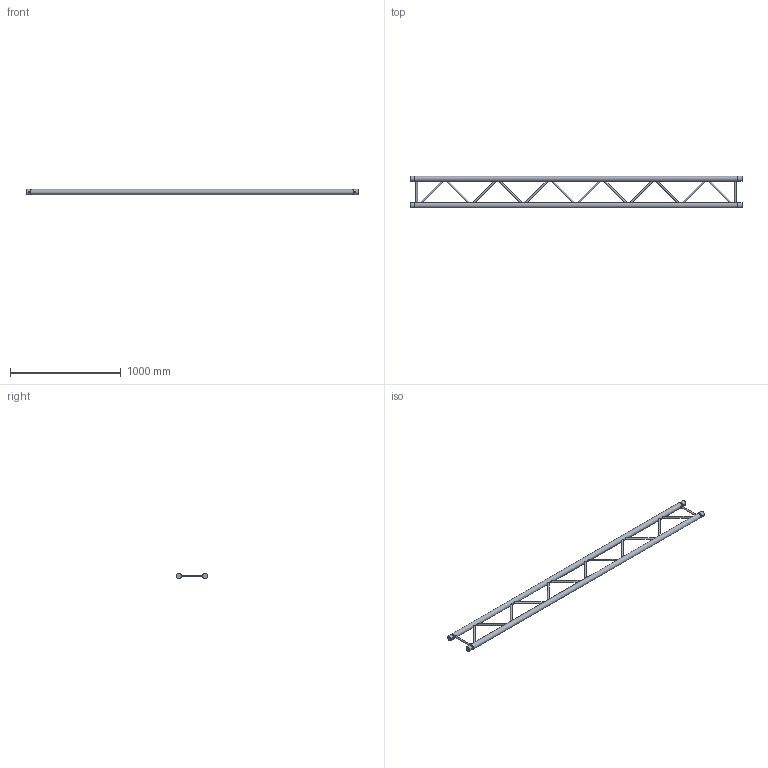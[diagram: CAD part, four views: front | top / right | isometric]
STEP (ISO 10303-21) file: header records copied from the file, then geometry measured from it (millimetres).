
FILE_DESCRIPTION(/* description */ (''),/* implementation_level */ '2;1');
FILE_NAME(/* name */ 'C:\Users\stephan\Desktop\Nieuwe map\H30L\111050052.stp',/* time_stamp */ '2016-09-12T11:59:29+02:00',/* author */ ('Stephan'),/* organization */ (''),/* preprocessor_version */ 'ST-DEVELOPER v15.6',/* originating_system */ 'Autodesk Inventor 2015',/* authorisation */ '');
FILE_SCHEMA (('AUTOMOTIVE_DESIGN { 1 0 10303 214 3 1 1 }'));
Length unit declared in the file: millimetre
Products named in the file (1): 160026973
Bounding box: 3000 x 287.3 x 48.3 mm (x, y, z)
Volume: 3549780.5 mm3; surface area: 1900894.5 mm2
Topology: 16 solids, 18 shells, 130 faces, 238 edges, 148 vertices
Faces by surface type: plane 72, cylinder 54, cone 4
Full cylindrical faces by diameter (mm): 10 x4, 16 x14, 41.8 x4, 42.3 x2, 48.3 x6
Entity records: 3466 total; most frequent: CARTESIAN_POINT 975, DIRECTION 434, ORIENTED_EDGE 408, EDGE_CURVE 200, AXIS2_PLACEMENT_3D 191, EDGE_LOOP 184, VERTEX_POINT 148, STYLED_ITEM 107
